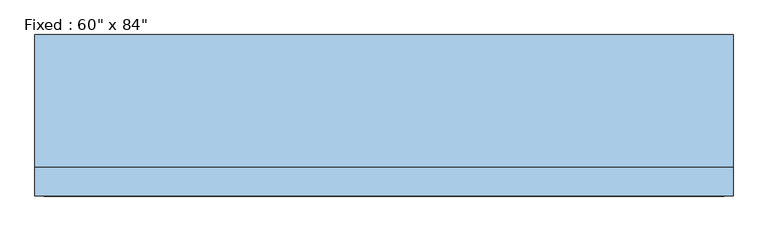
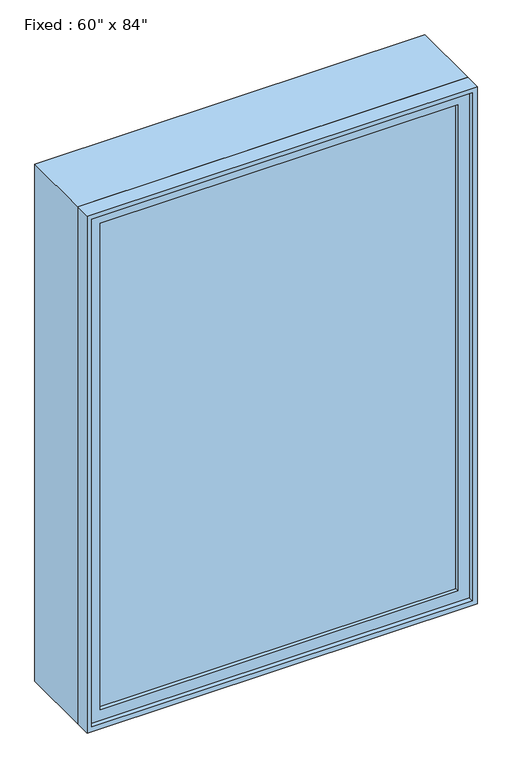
"""IFC4 building model written with IfcOpenShell, lengths in millimetres: window geometry."""

from ifc_helpers import new_model, si_unit, frame, origin, place, context, project, spatial, polyline, outline, extrude, source, transform, mapped, element, save


def window_69481220(model_context):
    return source(origin(), model_context, "Body", "SweptSolid", [
        extrude(outline(polyline([(660.4, -128.5875), (660.4, -141.2875), (-736.6, -141.2875), (-736.6, -128.5875), (660.4, -128.5875)])), frame((0.0, 0.0, 368.3), z_axis=(0.0, 0.0, 1.0), x_axis=(1.0, 0.0, 0.0)), (0.0, 0.0, 1.0), 2006.6),
        extrude(outline(polyline([(2419.35, -781.05), (323.85, -781.05), (323.85, 704.85), (2419.35, 704.85), (2419.35, -781.05)]), holes=[polyline([(2374.9, -736.6), (2374.9, 660.4), (368.3, 660.4), (368.3, -736.6), (2374.9, -736.6)])]), frame((0.0, -157.1625, 0.0), z_axis=(0.0, 1.0, 0.0), x_axis=(0.0, 0.0, 1.0)), (0.0, 0.0, 1.0), 44.45),
        extrude(outline(polyline([(2438.4, -800.1), (304.8, -800.1), (304.8, 723.9), (2438.4, 723.9), (2438.4, -800.1)]), holes=[polyline([(2406.65, -768.35), (2406.65, 692.15), (336.55, 692.15), (336.55, -768.35), (2406.65, -768.35)])]), frame((0.0, -112.7125, 0.0), z_axis=(0.0, 1.0, 0.0), x_axis=(0.0, 0.0, 1.0)), (0.0, 0.0, 1.0), 288.925),
        extrude(outline(polyline([(2438.4, 723.9), (2438.4, -800.1), (304.8, -800.1), (304.8, 723.9), (2438.4, 723.9)]), holes=[polyline([(2419.35, 704.85), (323.85, 704.85), (323.85, -781.05), (2419.35, -781.05), (2419.35, 704.85)])]), frame((0.0, -176.2125, 0.0), z_axis=(0.0, 1.0, 0.0), x_axis=(0.0, 0.0, 1.0)), (0.0, 0.0, 1.0), 63.5),
    ])


if __name__ == "__main__":
    model = new_model("IFC4")
    model_context = context("Model", 3, world=origin())
    ifc_project = project(units=[si_unit("LENGTHUNIT", "METRE", prefix="MILLI")], contexts=[model_context])
    site = spatial("IfcSite", under=ifc_project)
    building = spatial("IfcBuilding", under=site)
    placement = place(None, origin())
    window_shape = window_69481220(model_context)
    element("IfcWindow", 1, ObjectType="Fixed : 60\" x 84\"", at=placement, inside=building, context=model_context, shape_type="MappedRepresentation", body=[
        mapped(window_shape, transform((0.0, 0.0, 0.0), x_axis=(1.0, 0.0, 0.0), y_axis=(0.0, 1.0, 0.0), z_axis=(0.0, 0.0, 1.0))),
    ])
    save(model, "model.ifc")
